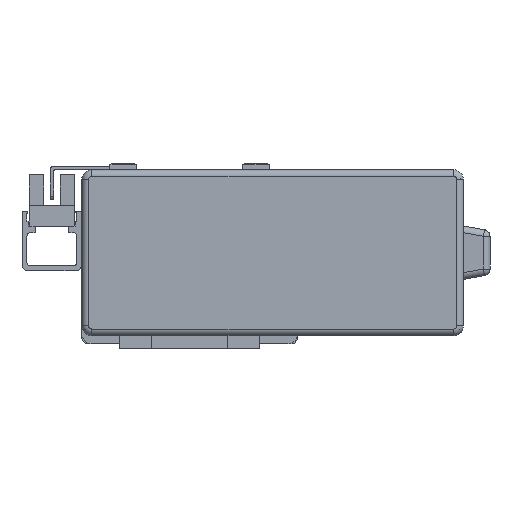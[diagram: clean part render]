
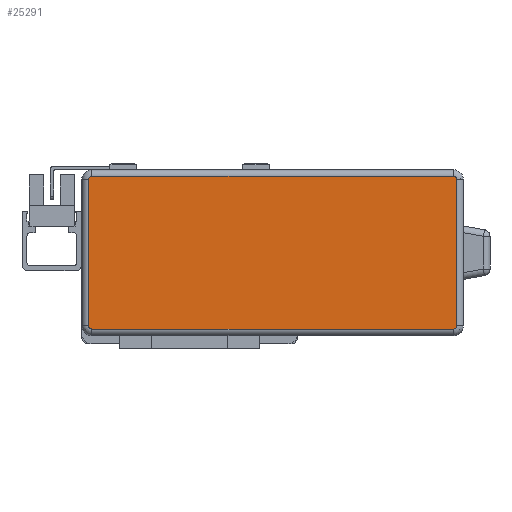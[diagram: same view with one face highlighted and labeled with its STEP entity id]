
A CAD part, left-side view. The second image highlights one B-rep face of the part: STEP entity #25291.
In plain terms, the highlighted planar face has unit normal (-1, 0, 0) as drawn and (0, 0, 1) by its records, which use the part's own axes.
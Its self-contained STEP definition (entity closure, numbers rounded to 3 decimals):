
#218 = VERTEX_POINT ( 'NONE', #5326 ) ;
#608 = DIRECTION ( 'NONE',  ( -1., 0., 0. ) ) ;
#1258 = DIRECTION ( 'NONE',  ( 0., 1., 0. ) ) ;
#1364 = PLANE ( 'NONE',  #12161 ) ;
#2485 = VERTEX_POINT ( 'NONE', #15619 ) ;
#2962 = VERTEX_POINT ( 'NONE', #10141 ) ;
#3253 = CIRCLE ( 'NONE', #16345, 1. ) ;
#3427 = DIRECTION ( 'NONE',  ( -1., 0., 0. ) ) ;
#3444 = ORIENTED_EDGE ( 'NONE', *, *, #26440, .T. ) ;
#4699 = ORIENTED_EDGE ( 'NONE', *, *, #25169, .T. ) ;
#5115 = CARTESIAN_POINT ( 'NONE',  ( 0., -23., 40. ) ) ;
#5326 = CARTESIAN_POINT ( 'NONE',  ( -54.5, -23., 40. ) ) ;
#5571 = ORIENTED_EDGE ( 'NONE', *, *, #19015, .T. ) ;
#5715 = CARTESIAN_POINT ( 'NONE',  ( 54.5, 23., 40. ) ) ;
#6060 = DIRECTION ( 'NONE',  ( 0., 0., 1. ) ) ;
#6467 = EDGE_CURVE ( 'NONE', #17561, #25237, #3253, .T. ) ;
#7025 = LINE ( 'NONE', #22727, #11931 ) ;
#7278 = CARTESIAN_POINT ( 'NONE',  ( -54.5, 22., 40. ) ) ;
#7969 = EDGE_CURVE ( 'NONE', #25237, #2962, #12690, .T. ) ;
#8613 = EDGE_LOOP ( 'NONE', ( #5571, #26086, #16655, #10244, #24558, #4699, #14953, #3444 ) ) ;
#9077 = CARTESIAN_POINT ( 'NONE',  ( -54.5, -22., 40. ) ) ;
#9338 = DIRECTION ( 'NONE',  ( 0., -1., 0. ) ) ;
#9364 = DIRECTION ( 'NONE',  ( -1., 0., 0. ) ) ;
#9533 = CARTESIAN_POINT ( 'NONE',  ( 55.5, 0., 40. ) ) ;
#9586 = EDGE_CURVE ( 'NONE', #26091, #25485, #7025, .T. ) ;
#10141 = CARTESIAN_POINT ( 'NONE',  ( 55.5, 22., 40. ) ) ;
#10244 = ORIENTED_EDGE ( 'NONE', *, *, #23542, .T. ) ;
#11058 = AXIS2_PLACEMENT_3D ( 'NONE', #18556, #6060, #20674 ) ;
#11152 = VECTOR ( 'NONE', #9338, 1000. ) ;
#11170 = DIRECTION ( 'NONE',  ( -1., 0., 0. ) ) ;
#11931 = VECTOR ( 'NONE', #18635, 1000. ) ;
#12038 = VECTOR ( 'NONE', #1258, 1000. ) ;
#12161 = AXIS2_PLACEMENT_3D ( 'NONE', #22117, #15912, #3427 ) ;
#12280 = EDGE_CURVE ( 'NONE', #2485, #23975, #17373, .T. ) ;
#12690 = LINE ( 'NONE', #9533, #12038 ) ;
#13097 = DIRECTION ( 'NONE',  ( 0., 0., 1. ) ) ;
#14953 = ORIENTED_EDGE ( 'NONE', *, *, #12280, .T. ) ;
#15619 = CARTESIAN_POINT ( 'NONE',  ( -55.5, 22., 40. ) ) ;
#15648 = CARTESIAN_POINT ( 'NONE',  ( 55.5, -22., 40. ) ) ;
#15912 = DIRECTION ( 'NONE',  ( 0., 0., -1. ) ) ;
#16345 = AXIS2_PLACEMENT_3D ( 'NONE', #25572, #13097, #608 ) ;
#16655 = ORIENTED_EDGE ( 'NONE', *, *, #7969, .T. ) ;
#16914 = VECTOR ( 'NONE', #17635, 1000. ) ;
#17373 = LINE ( 'NONE', #19729, #11152 ) ;
#17561 = VERTEX_POINT ( 'NONE', #22884 ) ;
#17635 = DIRECTION ( 'NONE',  ( 1., 0., 0. ) ) ;
#17818 = CARTESIAN_POINT ( 'NONE',  ( -55.5, -22., 40. ) ) ;
#18556 = CARTESIAN_POINT ( 'NONE',  ( 54.5, 22., 40. ) ) ;
#18635 = DIRECTION ( 'NONE',  ( -1., 0., 0. ) ) ;
#19015 = EDGE_CURVE ( 'NONE', #218, #17561, #26704, .T. ) ;
#19729 = CARTESIAN_POINT ( 'NONE',  ( -55.5, 0., 40. ) ) ;
#20674 = DIRECTION ( 'NONE',  ( -1., 0., 0. ) ) ;
#21850 = DIRECTION ( 'NONE',  ( 0., 0., 1. ) ) ;
#22117 = CARTESIAN_POINT ( 'NONE',  ( 0., 0., 40. ) ) ;
#22439 = AXIS2_PLACEMENT_3D ( 'NONE', #7278, #21850, #9364 ) ;
#22727 = CARTESIAN_POINT ( 'NONE',  ( 0., 23., 40. ) ) ;
#22829 = CARTESIAN_POINT ( 'NONE',  ( -54.5, 23., 40. ) ) ;
#22884 = CARTESIAN_POINT ( 'NONE',  ( 54.5, -23., 40. ) ) ;
#23129 = AXIS2_PLACEMENT_3D ( 'NONE', #9077, #23672, #11170 ) ;
#23542 = EDGE_CURVE ( 'NONE', #2962, #26091, #26340, .T. ) ;
#23672 = DIRECTION ( 'NONE',  ( 0., 0., 1. ) ) ;
#23682 = FACE_OUTER_BOUND ( 'NONE', #8613, .T. ) ;
#23975 = VERTEX_POINT ( 'NONE', #17818 ) ;
#24558 = ORIENTED_EDGE ( 'NONE', *, *, #9586, .T. ) ;
#24590 = CIRCLE ( 'NONE', #23129, 1. ) ;
#25169 = EDGE_CURVE ( 'NONE', #25485, #2485, #25648, .T. ) ;
#25237 = VERTEX_POINT ( 'NONE', #15648 ) ;
#25291 = ADVANCED_FACE ( 'NONE', ( #23682 ), #1364, .F. ) ;
#25485 = VERTEX_POINT ( 'NONE', #22829 ) ;
#25572 = CARTESIAN_POINT ( 'NONE',  ( 54.5, -22., 40. ) ) ;
#25648 = CIRCLE ( 'NONE', #22439, 1. ) ;
#26086 = ORIENTED_EDGE ( 'NONE', *, *, #6467, .T. ) ;
#26091 = VERTEX_POINT ( 'NONE', #5715 ) ;
#26340 = CIRCLE ( 'NONE', #11058, 1. ) ;
#26440 = EDGE_CURVE ( 'NONE', #23975, #218, #24590, .T. ) ;
#26704 = LINE ( 'NONE', #5115, #16914 ) ;
